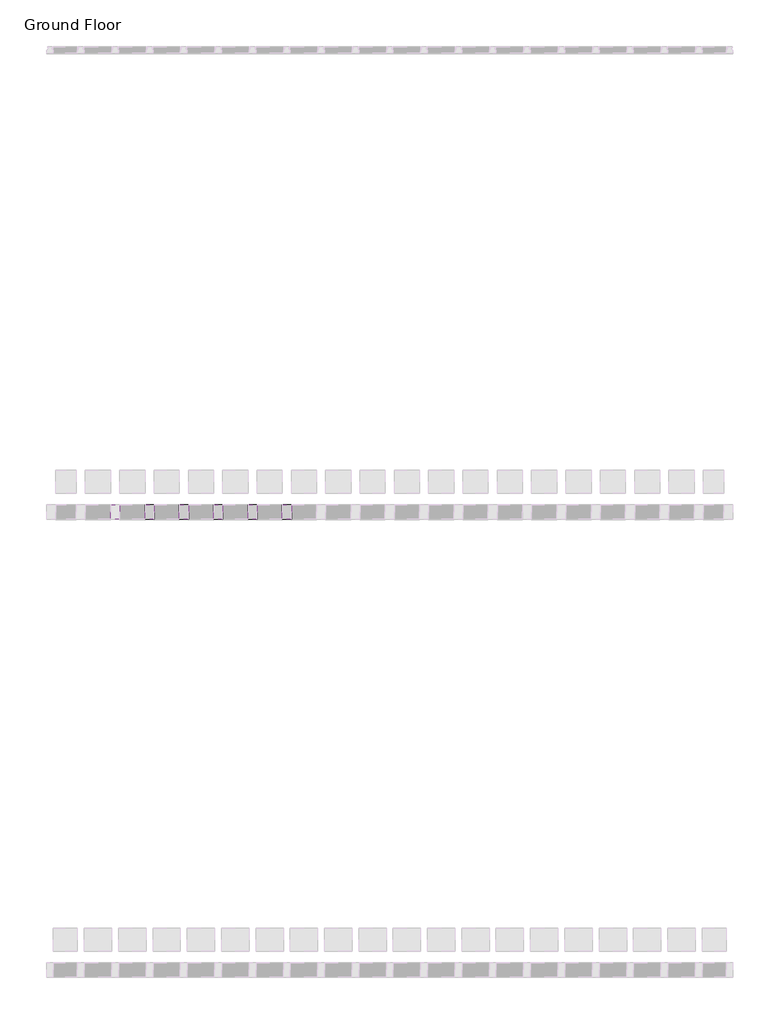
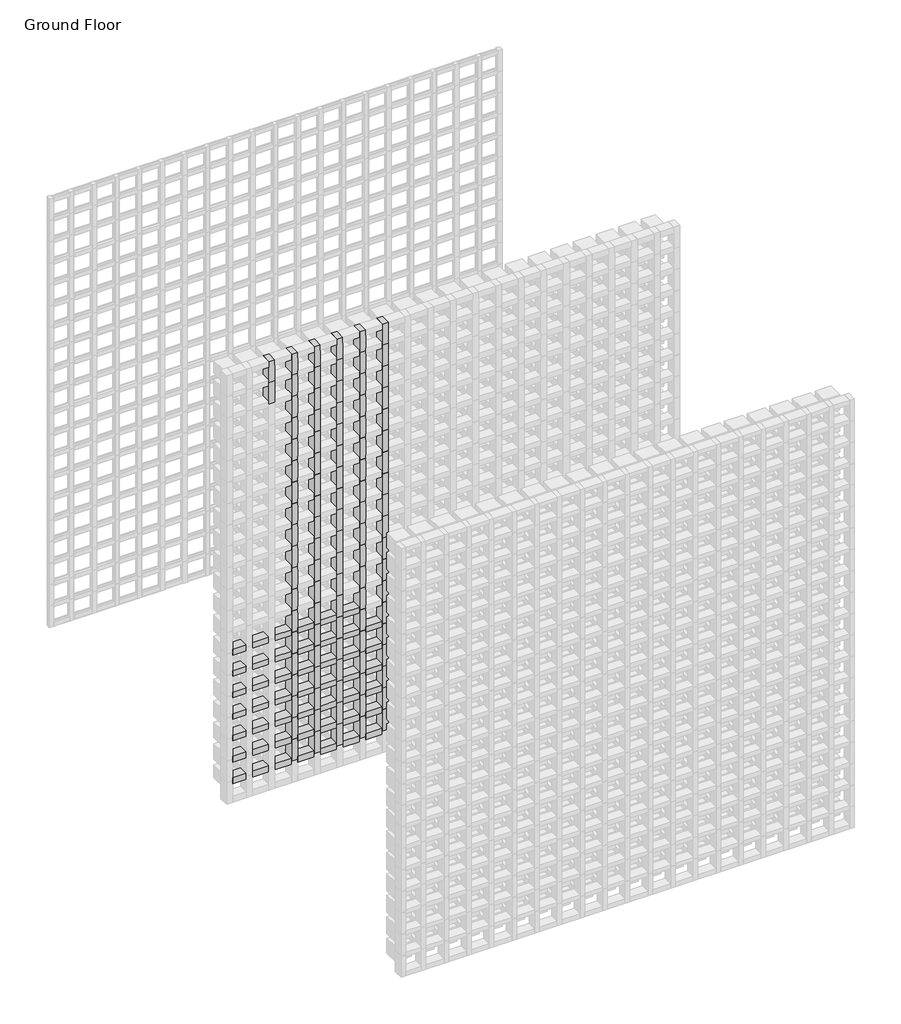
# One storey, part 81 of 350: 145 members.
"""IFC4 building model written with IfcOpenShell, lengths in millimetres."""

from ifc_helpers import new_model, si_unit, origin, place, context, project, spatial, transform, mapped, element, save
from components import rectangular_mullion_655930e9, rectangular_mullion_0b6a8654, rectangular_mullion_97e353d0

model = new_model("IFC4")

# Units and contexts
model_context = context("Model", 3, world=origin())
ifc_project = project(units=[si_unit("LENGTHUNIT", "METRE", prefix="MILLI")], contexts=[model_context])

# Site, building, storey
site = spatial("IfcSite", under=ifc_project)
building = spatial("IfcBuilding", under=site)
storey = spatial("IfcBuildingStorey", under=building, Name="Ground Floor", Elevation=0.0)

# Members
placement = place(None, origin())
rectangular_mullion_shape = rectangular_mullion_655930e9(model_context)
element("IfcMember", 1, ObjectType="Rectangular Mullion : Batten_Timber_Modinex_Austratus_Grid_Fascia_40x65_AlaskanYellowCedar", at=placement, inside=storey, context=model_context, shape_type="MappedRepresentation", body=[
    mapped(rectangular_mullion_shape, transform((2216.4361642, 40968.2978302, 2700.0), x_axis=(1.0, 0.0, 0.0), y_axis=(0.0, -1.0, 0.0), z_axis=(0.0, 0.0, -1.0))),
])
element("IfcMember", 2, ObjectType="Rectangular Mullion : Batten_Timber_Modinex_Austratus_Grid_Fascia_40x65_AlaskanYellowCedar", at=placement, inside=storey, context=model_context, shape_type="MappedRepresentation", body=[
    mapped(rectangular_mullion_shape, transform((2366.4361642, 40968.2978302, 150.0), x_axis=(1.0, 0.0, 0.0), y_axis=(0.0, -1.0, 0.0), z_axis=(0.0, 0.0, -1.0))),
])
element("IfcMember", 3, ObjectType="Rectangular Mullion : Batten_Timber_Modinex_Austratus_Grid_Fascia_40x65_AlaskanYellowCedar", at=placement, inside=storey, context=model_context, shape_type="MappedRepresentation", body=[
    mapped(rectangular_mullion_shape, transform((2366.4361642, 40968.2978302, 300.0), x_axis=(1.0, 0.0, 0.0), y_axis=(0.0, -1.0, 0.0), z_axis=(0.0, 0.0, -1.0))),
])
element("IfcMember", 4, ObjectType="Rectangular Mullion : Batten_Timber_Modinex_Austratus_Grid_Fascia_40x65_AlaskanYellowCedar", at=placement, inside=storey, context=model_context, shape_type="MappedRepresentation", body=[
    mapped(rectangular_mullion_shape, transform((2366.4361642, 40968.2978302, 450.0), x_axis=(1.0, 0.0, 0.0), y_axis=(0.0, -1.0, 0.0), z_axis=(0.0, 0.0, -1.0))),
])
element("IfcMember", 5, ObjectType="Rectangular Mullion : Batten_Timber_Modinex_Austratus_Grid_Fascia_40x65_AlaskanYellowCedar", at=placement, inside=storey, context=model_context, shape_type="MappedRepresentation", body=[
    mapped(rectangular_mullion_shape, transform((2366.4361642, 40968.2978302, 600.0), x_axis=(1.0, 0.0, 0.0), y_axis=(0.0, -1.0, 0.0), z_axis=(0.0, 0.0, -1.0))),
])
element("IfcMember", 6, ObjectType="Rectangular Mullion : Batten_Timber_Modinex_Austratus_Grid_Fascia_40x65_AlaskanYellowCedar", at=placement, inside=storey, context=model_context, shape_type="MappedRepresentation", body=[
    mapped(rectangular_mullion_shape, transform((2366.4361642, 40968.2978302, 750.0), x_axis=(1.0, 0.0, 0.0), y_axis=(0.0, -1.0, 0.0), z_axis=(0.0, 0.0, -1.0))),
])
element("IfcMember", 7, ObjectType="Rectangular Mullion : Batten_Timber_Modinex_Austratus_Grid_Fascia_40x65_AlaskanYellowCedar", at=placement, inside=storey, context=model_context, shape_type="MappedRepresentation", body=[
    mapped(rectangular_mullion_shape, transform((2366.4361642, 40968.2978302, 900.0), x_axis=(1.0, 0.0, 0.0), y_axis=(0.0, -1.0, 0.0), z_axis=(0.0, 0.0, -1.0))),
])
element("IfcMember", 8, ObjectType="Rectangular Mullion : Batten_Timber_Modinex_Austratus_Grid_Fascia_40x65_AlaskanYellowCedar", at=placement, inside=storey, context=model_context, shape_type="MappedRepresentation", body=[
    mapped(rectangular_mullion_shape, transform((2366.4361642, 40968.2978302, 1050.0), x_axis=(1.0, 0.0, 0.0), y_axis=(0.0, -1.0, 0.0), z_axis=(0.0, 0.0, -1.0))),
])
element("IfcMember", 9, ObjectType="Rectangular Mullion : Batten_Timber_Modinex_Austratus_Grid_Fascia_40x65_AlaskanYellowCedar", at=placement, inside=storey, context=model_context, shape_type="MappedRepresentation", body=[
    mapped(rectangular_mullion_shape, transform((2366.4361642, 40968.2978302, 1200.0), x_axis=(1.0, 0.0, 0.0), y_axis=(0.0, -1.0, 0.0), z_axis=(0.0, 0.0, -1.0))),
])
element("IfcMember", 10, ObjectType="Rectangular Mullion : Batten_Timber_Modinex_Austratus_Grid_Fascia_40x65_AlaskanYellowCedar", at=placement, inside=storey, context=model_context, shape_type="MappedRepresentation", body=[
    mapped(rectangular_mullion_shape, transform((2366.4361642, 40968.2978302, 1350.0), x_axis=(1.0, 0.0, 0.0), y_axis=(0.0, -1.0, 0.0), z_axis=(0.0, 0.0, -1.0))),
])
element("IfcMember", 11, ObjectType="Rectangular Mullion : Batten_Timber_Modinex_Austratus_Grid_Fascia_40x65_AlaskanYellowCedar", at=placement, inside=storey, context=model_context, shape_type="MappedRepresentation", body=[
    mapped(rectangular_mullion_shape, transform((2366.4361642, 40968.2978302, 1500.0), x_axis=(1.0, 0.0, 0.0), y_axis=(0.0, -1.0, 0.0), z_axis=(0.0, 0.0, -1.0))),
])
element("IfcMember", 12, ObjectType="Rectangular Mullion : Batten_Timber_Modinex_Austratus_Grid_Fascia_40x65_AlaskanYellowCedar", at=placement, inside=storey, context=model_context, shape_type="MappedRepresentation", body=[
    mapped(rectangular_mullion_shape, transform((2366.4361642, 40968.2978302, 1650.0), x_axis=(1.0, 0.0, 0.0), y_axis=(0.0, -1.0, 0.0), z_axis=(0.0, 0.0, -1.0))),
])
element("IfcMember", 13, ObjectType="Rectangular Mullion : Batten_Timber_Modinex_Austratus_Grid_Fascia_40x65_AlaskanYellowCedar", at=placement, inside=storey, context=model_context, shape_type="MappedRepresentation", body=[
    mapped(rectangular_mullion_shape, transform((2366.4361642, 40968.2978302, 1800.0), x_axis=(1.0, 0.0, 0.0), y_axis=(0.0, -1.0, 0.0), z_axis=(0.0, 0.0, -1.0))),
])
element("IfcMember", 14, ObjectType="Rectangular Mullion : Batten_Timber_Modinex_Austratus_Grid_Fascia_40x65_AlaskanYellowCedar", at=placement, inside=storey, context=model_context, shape_type="MappedRepresentation", body=[
    mapped(rectangular_mullion_shape, transform((2366.4361642, 40968.2978302, 1950.0), x_axis=(1.0, 0.0, 0.0), y_axis=(0.0, -1.0, 0.0), z_axis=(0.0, 0.0, -1.0))),
])
element("IfcMember", 15, ObjectType="Rectangular Mullion : Batten_Timber_Modinex_Austratus_Grid_Fascia_40x65_AlaskanYellowCedar", at=placement, inside=storey, context=model_context, shape_type="MappedRepresentation", body=[
    mapped(rectangular_mullion_shape, transform((2366.4361642, 40968.2978302, 2100.0), x_axis=(1.0, 0.0, 0.0), y_axis=(0.0, -1.0, 0.0), z_axis=(0.0, 0.0, -1.0))),
])
element("IfcMember", 16, ObjectType="Rectangular Mullion : Batten_Timber_Modinex_Austratus_Grid_Fascia_40x65_AlaskanYellowCedar", at=placement, inside=storey, context=model_context, shape_type="MappedRepresentation", body=[
    mapped(rectangular_mullion_shape, transform((2366.4361642, 40968.2978302, 2250.0), x_axis=(1.0, 0.0, 0.0), y_axis=(0.0, -1.0, 0.0), z_axis=(0.0, 0.0, -1.0))),
])
element("IfcMember", 17, ObjectType="Rectangular Mullion : Batten_Timber_Modinex_Austratus_Grid_Fascia_40x65_AlaskanYellowCedar", at=placement, inside=storey, context=model_context, shape_type="MappedRepresentation", body=[
    mapped(rectangular_mullion_shape, transform((2366.4361642, 40968.2978302, 2400.0), x_axis=(1.0, 0.0, 0.0), y_axis=(0.0, -1.0, 0.0), z_axis=(0.0, 0.0, -1.0))),
])
element("IfcMember", 18, ObjectType="Rectangular Mullion : Batten_Timber_Modinex_Austratus_Grid_Fascia_40x65_AlaskanYellowCedar", at=placement, inside=storey, context=model_context, shape_type="MappedRepresentation", body=[
    mapped(rectangular_mullion_shape, transform((2366.4361642, 40968.2978302, 2550.0), x_axis=(1.0, 0.0, 0.0), y_axis=(0.0, -1.0, 0.0), z_axis=(0.0, 0.0, -1.0))),
])
element("IfcMember", 19, ObjectType="Rectangular Mullion : Batten_Timber_Modinex_Austratus_Grid_Fascia_40x65_AlaskanYellowCedar", at=placement, inside=storey, context=model_context, shape_type="MappedRepresentation", body=[
    mapped(rectangular_mullion_shape, transform((2366.4361642, 40968.2978302, 2700.0), x_axis=(1.0, 0.0, 0.0), y_axis=(0.0, -1.0, 0.0), z_axis=(0.0, 0.0, -1.0))),
])
element("IfcMember", 20, ObjectType="Rectangular Mullion : Batten_Timber_Modinex_Austratus_Grid_Fascia_40x65_AlaskanYellowCedar", at=placement, inside=storey, context=model_context, shape_type="MappedRepresentation", body=[
    mapped(rectangular_mullion_shape, transform((2516.4361642, 40968.2978302, 150.0), x_axis=(1.0, 0.0, 0.0), y_axis=(0.0, -1.0, 0.0), z_axis=(0.0, 0.0, -1.0))),
])
element("IfcMember", 21, ObjectType="Rectangular Mullion : Batten_Timber_Modinex_Austratus_Grid_Fascia_40x65_AlaskanYellowCedar", at=placement, inside=storey, context=model_context, shape_type="MappedRepresentation", body=[
    mapped(rectangular_mullion_shape, transform((2516.4361642, 40968.2978302, 300.0), x_axis=(1.0, 0.0, 0.0), y_axis=(0.0, -1.0, 0.0), z_axis=(0.0, 0.0, -1.0))),
])
element("IfcMember", 22, ObjectType="Rectangular Mullion : Batten_Timber_Modinex_Austratus_Grid_Fascia_40x65_AlaskanYellowCedar", at=placement, inside=storey, context=model_context, shape_type="MappedRepresentation", body=[
    mapped(rectangular_mullion_shape, transform((2516.4361642, 40968.2978302, 450.0), x_axis=(1.0, 0.0, 0.0), y_axis=(0.0, -1.0, 0.0), z_axis=(0.0, 0.0, -1.0))),
])
element("IfcMember", 23, ObjectType="Rectangular Mullion : Batten_Timber_Modinex_Austratus_Grid_Fascia_40x65_AlaskanYellowCedar", at=placement, inside=storey, context=model_context, shape_type="MappedRepresentation", body=[
    mapped(rectangular_mullion_shape, transform((2516.4361642, 40968.2978302, 600.0), x_axis=(1.0, 0.0, 0.0), y_axis=(0.0, -1.0, 0.0), z_axis=(0.0, 0.0, -1.0))),
])
element("IfcMember", 24, ObjectType="Rectangular Mullion : Batten_Timber_Modinex_Austratus_Grid_Fascia_40x65_AlaskanYellowCedar", at=placement, inside=storey, context=model_context, shape_type="MappedRepresentation", body=[
    mapped(rectangular_mullion_shape, transform((2516.4361642, 40968.2978302, 750.0), x_axis=(1.0, 0.0, 0.0), y_axis=(0.0, -1.0, 0.0), z_axis=(0.0, 0.0, -1.0))),
])
element("IfcMember", 25, ObjectType="Rectangular Mullion : Batten_Timber_Modinex_Austratus_Grid_Fascia_40x65_AlaskanYellowCedar", at=placement, inside=storey, context=model_context, shape_type="MappedRepresentation", body=[
    mapped(rectangular_mullion_shape, transform((2516.4361642, 40968.2978302, 900.0), x_axis=(1.0, 0.0, 0.0), y_axis=(0.0, -1.0, 0.0), z_axis=(0.0, 0.0, -1.0))),
])
element("IfcMember", 26, ObjectType="Rectangular Mullion : Batten_Timber_Modinex_Austratus_Grid_Fascia_40x65_AlaskanYellowCedar", at=placement, inside=storey, context=model_context, shape_type="MappedRepresentation", body=[
    mapped(rectangular_mullion_shape, transform((2516.4361642, 40968.2978302, 1050.0), x_axis=(1.0, 0.0, 0.0), y_axis=(0.0, -1.0, 0.0), z_axis=(0.0, 0.0, -1.0))),
])
element("IfcMember", 27, ObjectType="Rectangular Mullion : Batten_Timber_Modinex_Austratus_Grid_Fascia_40x65_AlaskanYellowCedar", at=placement, inside=storey, context=model_context, shape_type="MappedRepresentation", body=[
    mapped(rectangular_mullion_shape, transform((2516.4361642, 40968.2978302, 1200.0), x_axis=(1.0, 0.0, 0.0), y_axis=(0.0, -1.0, 0.0), z_axis=(0.0, 0.0, -1.0))),
])
element("IfcMember", 28, ObjectType="Rectangular Mullion : Batten_Timber_Modinex_Austratus_Grid_Fascia_40x65_AlaskanYellowCedar", at=placement, inside=storey, context=model_context, shape_type="MappedRepresentation", body=[
    mapped(rectangular_mullion_shape, transform((2516.4361642, 40968.2978302, 1350.0), x_axis=(1.0, 0.0, 0.0), y_axis=(0.0, -1.0, 0.0), z_axis=(0.0, 0.0, -1.0))),
])
element("IfcMember", 29, ObjectType="Rectangular Mullion : Batten_Timber_Modinex_Austratus_Grid_Fascia_40x65_AlaskanYellowCedar", at=placement, inside=storey, context=model_context, shape_type="MappedRepresentation", body=[
    mapped(rectangular_mullion_shape, transform((2516.4361642, 40968.2978302, 1500.0), x_axis=(1.0, 0.0, 0.0), y_axis=(0.0, -1.0, 0.0), z_axis=(0.0, 0.0, -1.0))),
])
element("IfcMember", 30, ObjectType="Rectangular Mullion : Batten_Timber_Modinex_Austratus_Grid_Fascia_40x65_AlaskanYellowCedar", at=placement, inside=storey, context=model_context, shape_type="MappedRepresentation", body=[
    mapped(rectangular_mullion_shape, transform((2516.4361642, 40968.2978302, 1650.0), x_axis=(1.0, 0.0, 0.0), y_axis=(0.0, -1.0, 0.0), z_axis=(0.0, 0.0, -1.0))),
])
element("IfcMember", 31, ObjectType="Rectangular Mullion : Batten_Timber_Modinex_Austratus_Grid_Fascia_40x65_AlaskanYellowCedar", at=placement, inside=storey, context=model_context, shape_type="MappedRepresentation", body=[
    mapped(rectangular_mullion_shape, transform((2516.4361642, 40968.2978302, 1800.0), x_axis=(1.0, 0.0, 0.0), y_axis=(0.0, -1.0, 0.0), z_axis=(0.0, 0.0, -1.0))),
])
element("IfcMember", 32, ObjectType="Rectangular Mullion : Batten_Timber_Modinex_Austratus_Grid_Fascia_40x65_AlaskanYellowCedar", at=placement, inside=storey, context=model_context, shape_type="MappedRepresentation", body=[
    mapped(rectangular_mullion_shape, transform((2516.4361642, 40968.2978302, 1950.0), x_axis=(1.0, 0.0, 0.0), y_axis=(0.0, -1.0, 0.0), z_axis=(0.0, 0.0, -1.0))),
])
element("IfcMember", 33, ObjectType="Rectangular Mullion : Batten_Timber_Modinex_Austratus_Grid_Fascia_40x65_AlaskanYellowCedar", at=placement, inside=storey, context=model_context, shape_type="MappedRepresentation", body=[
    mapped(rectangular_mullion_shape, transform((2516.4361642, 40968.2978302, 2100.0), x_axis=(1.0, 0.0, 0.0), y_axis=(0.0, -1.0, 0.0), z_axis=(0.0, 0.0, -1.0))),
])
element("IfcMember", 34, ObjectType="Rectangular Mullion : Batten_Timber_Modinex_Austratus_Grid_Fascia_40x65_AlaskanYellowCedar", at=placement, inside=storey, context=model_context, shape_type="MappedRepresentation", body=[
    mapped(rectangular_mullion_shape, transform((2516.4361642, 40968.2978302, 2250.0), x_axis=(1.0, 0.0, 0.0), y_axis=(0.0, -1.0, 0.0), z_axis=(0.0, 0.0, -1.0))),
])
element("IfcMember", 35, ObjectType="Rectangular Mullion : Batten_Timber_Modinex_Austratus_Grid_Fascia_40x65_AlaskanYellowCedar", at=placement, inside=storey, context=model_context, shape_type="MappedRepresentation", body=[
    mapped(rectangular_mullion_shape, transform((2516.4361642, 40968.2978302, 2400.0), x_axis=(1.0, 0.0, 0.0), y_axis=(0.0, -1.0, 0.0), z_axis=(0.0, 0.0, -1.0))),
])
element("IfcMember", 36, ObjectType="Rectangular Mullion : Batten_Timber_Modinex_Austratus_Grid_Fascia_40x65_AlaskanYellowCedar", at=placement, inside=storey, context=model_context, shape_type="MappedRepresentation", body=[
    mapped(rectangular_mullion_shape, transform((2516.4361642, 40968.2978302, 2550.0), x_axis=(1.0, 0.0, 0.0), y_axis=(0.0, -1.0, 0.0), z_axis=(0.0, 0.0, -1.0))),
])
element("IfcMember", 37, ObjectType="Rectangular Mullion : Batten_Timber_Modinex_Austratus_Grid_Fascia_40x65_AlaskanYellowCedar", at=placement, inside=storey, context=model_context, shape_type="MappedRepresentation", body=[
    mapped(rectangular_mullion_shape, transform((2516.4361642, 40968.2978302, 2700.0), x_axis=(1.0, 0.0, 0.0), y_axis=(0.0, -1.0, 0.0), z_axis=(0.0, 0.0, -1.0))),
])
element("IfcMember", 38, ObjectType="Rectangular Mullion : Batten_Timber_Modinex_Austratus_Grid_Fascia_40x65_AlaskanYellowCedar", at=placement, inside=storey, context=model_context, shape_type="MappedRepresentation", body=[
    mapped(rectangular_mullion_shape, transform((2666.4361642, 40968.2978302, 150.0), x_axis=(1.0, 0.0, 0.0), y_axis=(0.0, -1.0, 0.0), z_axis=(0.0, 0.0, -1.0))),
])
element("IfcMember", 39, ObjectType="Rectangular Mullion : Batten_Timber_Modinex_Austratus_Grid_Fascia_40x65_AlaskanYellowCedar", at=placement, inside=storey, context=model_context, shape_type="MappedRepresentation", body=[
    mapped(rectangular_mullion_shape, transform((2666.4361642, 40968.2978302, 300.0), x_axis=(1.0, 0.0, 0.0), y_axis=(0.0, -1.0, 0.0), z_axis=(0.0, 0.0, -1.0))),
])
element("IfcMember", 40, ObjectType="Rectangular Mullion : Batten_Timber_Modinex_Austratus_Grid_Fascia_40x65_AlaskanYellowCedar", at=placement, inside=storey, context=model_context, shape_type="MappedRepresentation", body=[
    mapped(rectangular_mullion_shape, transform((2666.4361642, 40968.2978302, 450.0), x_axis=(1.0, 0.0, 0.0), y_axis=(0.0, -1.0, 0.0), z_axis=(0.0, 0.0, -1.0))),
])
element("IfcMember", 41, ObjectType="Rectangular Mullion : Batten_Timber_Modinex_Austratus_Grid_Fascia_40x65_AlaskanYellowCedar", at=placement, inside=storey, context=model_context, shape_type="MappedRepresentation", body=[
    mapped(rectangular_mullion_shape, transform((2666.4361642, 40968.2978302, 600.0), x_axis=(1.0, 0.0, 0.0), y_axis=(0.0, -1.0, 0.0), z_axis=(0.0, 0.0, -1.0))),
])
element("IfcMember", 42, ObjectType="Rectangular Mullion : Batten_Timber_Modinex_Austratus_Grid_Fascia_40x65_AlaskanYellowCedar", at=placement, inside=storey, context=model_context, shape_type="MappedRepresentation", body=[
    mapped(rectangular_mullion_shape, transform((2666.4361642, 40968.2978302, 750.0), x_axis=(1.0, 0.0, 0.0), y_axis=(0.0, -1.0, 0.0), z_axis=(0.0, 0.0, -1.0))),
])
element("IfcMember", 43, ObjectType="Rectangular Mullion : Batten_Timber_Modinex_Austratus_Grid_Fascia_40x65_AlaskanYellowCedar", at=placement, inside=storey, context=model_context, shape_type="MappedRepresentation", body=[
    mapped(rectangular_mullion_shape, transform((2666.4361642, 40968.2978302, 900.0), x_axis=(1.0, 0.0, 0.0), y_axis=(0.0, -1.0, 0.0), z_axis=(0.0, 0.0, -1.0))),
])
element("IfcMember", 44, ObjectType="Rectangular Mullion : Batten_Timber_Modinex_Austratus_Grid_Fascia_40x65_AlaskanYellowCedar", at=placement, inside=storey, context=model_context, shape_type="MappedRepresentation", body=[
    mapped(rectangular_mullion_shape, transform((2666.4361642, 40968.2978302, 1050.0), x_axis=(1.0, 0.0, 0.0), y_axis=(0.0, -1.0, 0.0), z_axis=(0.0, 0.0, -1.0))),
])
element("IfcMember", 45, ObjectType="Rectangular Mullion : Batten_Timber_Modinex_Austratus_Grid_Fascia_40x65_AlaskanYellowCedar", at=placement, inside=storey, context=model_context, shape_type="MappedRepresentation", body=[
    mapped(rectangular_mullion_shape, transform((2666.4361642, 40968.2978302, 1200.0), x_axis=(1.0, 0.0, 0.0), y_axis=(0.0, -1.0, 0.0), z_axis=(0.0, 0.0, -1.0))),
])
element("IfcMember", 46, ObjectType="Rectangular Mullion : Batten_Timber_Modinex_Austratus_Grid_Fascia_40x65_AlaskanYellowCedar", at=placement, inside=storey, context=model_context, shape_type="MappedRepresentation", body=[
    mapped(rectangular_mullion_shape, transform((2666.4361642, 40968.2978302, 1350.0), x_axis=(1.0, 0.0, 0.0), y_axis=(0.0, -1.0, 0.0), z_axis=(0.0, 0.0, -1.0))),
])
element("IfcMember", 47, ObjectType="Rectangular Mullion : Batten_Timber_Modinex_Austratus_Grid_Fascia_40x65_AlaskanYellowCedar", at=placement, inside=storey, context=model_context, shape_type="MappedRepresentation", body=[
    mapped(rectangular_mullion_shape, transform((2666.4361642, 40968.2978302, 1500.0), x_axis=(1.0, 0.0, 0.0), y_axis=(0.0, -1.0, 0.0), z_axis=(0.0, 0.0, -1.0))),
])
element("IfcMember", 48, ObjectType="Rectangular Mullion : Batten_Timber_Modinex_Austratus_Grid_Fascia_40x65_AlaskanYellowCedar", at=placement, inside=storey, context=model_context, shape_type="MappedRepresentation", body=[
    mapped(rectangular_mullion_shape, transform((2666.4361642, 40968.2978302, 1650.0), x_axis=(1.0, 0.0, 0.0), y_axis=(0.0, -1.0, 0.0), z_axis=(0.0, 0.0, -1.0))),
])
element("IfcMember", 49, ObjectType="Rectangular Mullion : Batten_Timber_Modinex_Austratus_Grid_Fascia_40x65_AlaskanYellowCedar", at=placement, inside=storey, context=model_context, shape_type="MappedRepresentation", body=[
    mapped(rectangular_mullion_shape, transform((2666.4361642, 40968.2978302, 1800.0), x_axis=(1.0, 0.0, 0.0), y_axis=(0.0, -1.0, 0.0), z_axis=(0.0, 0.0, -1.0))),
])
element("IfcMember", 50, ObjectType="Rectangular Mullion : Batten_Timber_Modinex_Austratus_Grid_Fascia_40x65_AlaskanYellowCedar", at=placement, inside=storey, context=model_context, shape_type="MappedRepresentation", body=[
    mapped(rectangular_mullion_shape, transform((2666.4361642, 40968.2978302, 1950.0), x_axis=(1.0, 0.0, 0.0), y_axis=(0.0, -1.0, 0.0), z_axis=(0.0, 0.0, -1.0))),
])
element("IfcMember", 51, ObjectType="Rectangular Mullion : Batten_Timber_Modinex_Austratus_Grid_Fascia_40x65_AlaskanYellowCedar", at=placement, inside=storey, context=model_context, shape_type="MappedRepresentation", body=[
    mapped(rectangular_mullion_shape, transform((2666.4361642, 40968.2978302, 2100.0), x_axis=(1.0, 0.0, 0.0), y_axis=(0.0, -1.0, 0.0), z_axis=(0.0, 0.0, -1.0))),
])
element("IfcMember", 52, ObjectType="Rectangular Mullion : Batten_Timber_Modinex_Austratus_Grid_Fascia_40x65_AlaskanYellowCedar", at=placement, inside=storey, context=model_context, shape_type="MappedRepresentation", body=[
    mapped(rectangular_mullion_shape, transform((2666.4361642, 40968.2978302, 2250.0), x_axis=(1.0, 0.0, 0.0), y_axis=(0.0, -1.0, 0.0), z_axis=(0.0, 0.0, -1.0))),
])
element("IfcMember", 53, ObjectType="Rectangular Mullion : Batten_Timber_Modinex_Austratus_Grid_Fascia_40x65_AlaskanYellowCedar", at=placement, inside=storey, context=model_context, shape_type="MappedRepresentation", body=[
    mapped(rectangular_mullion_shape, transform((2666.4361642, 40968.2978302, 2400.0), x_axis=(1.0, 0.0, 0.0), y_axis=(0.0, -1.0, 0.0), z_axis=(0.0, 0.0, -1.0))),
])
element("IfcMember", 54, ObjectType="Rectangular Mullion : Batten_Timber_Modinex_Austratus_Grid_Fascia_40x65_AlaskanYellowCedar", at=placement, inside=storey, context=model_context, shape_type="MappedRepresentation", body=[
    mapped(rectangular_mullion_shape, transform((2666.4361642, 40968.2978302, 2550.0), x_axis=(1.0, 0.0, 0.0), y_axis=(0.0, -1.0, 0.0), z_axis=(0.0, 0.0, -1.0))),
])
element("IfcMember", 55, ObjectType="Rectangular Mullion : Batten_Timber_Modinex_Austratus_Grid_Fascia_40x65_AlaskanYellowCedar", at=placement, inside=storey, context=model_context, shape_type="MappedRepresentation", body=[
    mapped(rectangular_mullion_shape, transform((2666.4361642, 40968.2978302, 2700.0), x_axis=(1.0, 0.0, 0.0), y_axis=(0.0, -1.0, 0.0), z_axis=(0.0, 0.0, -1.0))),
])
element("IfcMember", 56, ObjectType="Rectangular Mullion : Batten_Timber_Modinex_Austratus_Grid_Fascia_40x65_AlaskanYellowCedar", at=placement, inside=storey, context=model_context, shape_type="MappedRepresentation", body=[
    mapped(rectangular_mullion_shape, transform((2816.4361642, 40968.2978302, 150.0), x_axis=(1.0, 0.0, 0.0), y_axis=(0.0, -1.0, 0.0), z_axis=(0.0, 0.0, -1.0))),
])
element("IfcMember", 57, ObjectType="Rectangular Mullion : Batten_Timber_Modinex_Austratus_Grid_Fascia_40x65_AlaskanYellowCedar", at=placement, inside=storey, context=model_context, shape_type="MappedRepresentation", body=[
    mapped(rectangular_mullion_shape, transform((2816.4361642, 40968.2978302, 300.0), x_axis=(1.0, 0.0, 0.0), y_axis=(0.0, -1.0, 0.0), z_axis=(0.0, 0.0, -1.0))),
])
element("IfcMember", 58, ObjectType="Rectangular Mullion : Batten_Timber_Modinex_Austratus_Grid_Fascia_40x65_AlaskanYellowCedar", at=placement, inside=storey, context=model_context, shape_type="MappedRepresentation", body=[
    mapped(rectangular_mullion_shape, transform((2816.4361642, 40968.2978302, 450.0), x_axis=(1.0, 0.0, 0.0), y_axis=(0.0, -1.0, 0.0), z_axis=(0.0, 0.0, -1.0))),
])
element("IfcMember", 59, ObjectType="Rectangular Mullion : Batten_Timber_Modinex_Austratus_Grid_Fascia_40x65_AlaskanYellowCedar", at=placement, inside=storey, context=model_context, shape_type="MappedRepresentation", body=[
    mapped(rectangular_mullion_shape, transform((2816.4361642, 40968.2978302, 600.0), x_axis=(1.0, 0.0, 0.0), y_axis=(0.0, -1.0, 0.0), z_axis=(0.0, 0.0, -1.0))),
])
element("IfcMember", 60, ObjectType="Rectangular Mullion : Batten_Timber_Modinex_Austratus_Grid_Fascia_40x65_AlaskanYellowCedar", at=placement, inside=storey, context=model_context, shape_type="MappedRepresentation", body=[
    mapped(rectangular_mullion_shape, transform((2816.4361642, 40968.2978302, 750.0), x_axis=(1.0, 0.0, 0.0), y_axis=(0.0, -1.0, 0.0), z_axis=(0.0, 0.0, -1.0))),
])
element("IfcMember", 61, ObjectType="Rectangular Mullion : Batten_Timber_Modinex_Austratus_Grid_Fascia_40x65_AlaskanYellowCedar", at=placement, inside=storey, context=model_context, shape_type="MappedRepresentation", body=[
    mapped(rectangular_mullion_shape, transform((2816.4361642, 40968.2978302, 900.0), x_axis=(1.0, 0.0, 0.0), y_axis=(0.0, -1.0, 0.0), z_axis=(0.0, 0.0, -1.0))),
])
element("IfcMember", 62, ObjectType="Rectangular Mullion : Batten_Timber_Modinex_Austratus_Grid_Fascia_40x65_AlaskanYellowCedar", at=placement, inside=storey, context=model_context, shape_type="MappedRepresentation", body=[
    mapped(rectangular_mullion_shape, transform((2816.4361642, 40968.2978302, 1050.0), x_axis=(1.0, 0.0, 0.0), y_axis=(0.0, -1.0, 0.0), z_axis=(0.0, 0.0, -1.0))),
])
element("IfcMember", 63, ObjectType="Rectangular Mullion : Batten_Timber_Modinex_Austratus_Grid_Fascia_40x65_AlaskanYellowCedar", at=placement, inside=storey, context=model_context, shape_type="MappedRepresentation", body=[
    mapped(rectangular_mullion_shape, transform((2816.4361642, 40968.2978302, 1200.0), x_axis=(1.0, 0.0, 0.0), y_axis=(0.0, -1.0, 0.0), z_axis=(0.0, 0.0, -1.0))),
])
element("IfcMember", 64, ObjectType="Rectangular Mullion : Batten_Timber_Modinex_Austratus_Grid_Fascia_40x65_AlaskanYellowCedar", at=placement, inside=storey, context=model_context, shape_type="MappedRepresentation", body=[
    mapped(rectangular_mullion_shape, transform((2816.4361642, 40968.2978302, 1350.0), x_axis=(1.0, 0.0, 0.0), y_axis=(0.0, -1.0, 0.0), z_axis=(0.0, 0.0, -1.0))),
])
element("IfcMember", 65, ObjectType="Rectangular Mullion : Batten_Timber_Modinex_Austratus_Grid_Fascia_40x65_AlaskanYellowCedar", at=placement, inside=storey, context=model_context, shape_type="MappedRepresentation", body=[
    mapped(rectangular_mullion_shape, transform((2816.4361642, 40968.2978302, 1500.0), x_axis=(1.0, 0.0, 0.0), y_axis=(0.0, -1.0, 0.0), z_axis=(0.0, 0.0, -1.0))),
])
element("IfcMember", 66, ObjectType="Rectangular Mullion : Batten_Timber_Modinex_Austratus_Grid_Fascia_40x65_AlaskanYellowCedar", at=placement, inside=storey, context=model_context, shape_type="MappedRepresentation", body=[
    mapped(rectangular_mullion_shape, transform((2816.4361642, 40968.2978302, 1650.0), x_axis=(1.0, 0.0, 0.0), y_axis=(0.0, -1.0, 0.0), z_axis=(0.0, 0.0, -1.0))),
])
element("IfcMember", 67, ObjectType="Rectangular Mullion : Batten_Timber_Modinex_Austratus_Grid_Fascia_40x65_AlaskanYellowCedar", at=placement, inside=storey, context=model_context, shape_type="MappedRepresentation", body=[
    mapped(rectangular_mullion_shape, transform((2816.4361642, 40968.2978302, 1800.0), x_axis=(1.0, 0.0, 0.0), y_axis=(0.0, -1.0, 0.0), z_axis=(0.0, 0.0, -1.0))),
])
element("IfcMember", 68, ObjectType="Rectangular Mullion : Batten_Timber_Modinex_Austratus_Grid_Fascia_40x65_AlaskanYellowCedar", at=placement, inside=storey, context=model_context, shape_type="MappedRepresentation", body=[
    mapped(rectangular_mullion_shape, transform((2816.4361642, 40968.2978302, 1950.0), x_axis=(1.0, 0.0, 0.0), y_axis=(0.0, -1.0, 0.0), z_axis=(0.0, 0.0, -1.0))),
])
element("IfcMember", 69, ObjectType="Rectangular Mullion : Batten_Timber_Modinex_Austratus_Grid_Fascia_40x65_AlaskanYellowCedar", at=placement, inside=storey, context=model_context, shape_type="MappedRepresentation", body=[
    mapped(rectangular_mullion_shape, transform((2816.4361642, 40968.2978302, 2100.0), x_axis=(1.0, 0.0, 0.0), y_axis=(0.0, -1.0, 0.0), z_axis=(0.0, 0.0, -1.0))),
])
element("IfcMember", 70, ObjectType="Rectangular Mullion : Batten_Timber_Modinex_Austratus_Grid_Fascia_40x65_AlaskanYellowCedar", at=placement, inside=storey, context=model_context, shape_type="MappedRepresentation", body=[
    mapped(rectangular_mullion_shape, transform((2816.4361642, 40968.2978302, 2250.0), x_axis=(1.0, 0.0, 0.0), y_axis=(0.0, -1.0, 0.0), z_axis=(0.0, 0.0, -1.0))),
])
element("IfcMember", 71, ObjectType="Rectangular Mullion : Batten_Timber_Modinex_Austratus_Grid_Fascia_40x65_AlaskanYellowCedar", at=placement, inside=storey, context=model_context, shape_type="MappedRepresentation", body=[
    mapped(rectangular_mullion_shape, transform((2816.4361642, 40968.2978302, 2400.0), x_axis=(1.0, 0.0, 0.0), y_axis=(0.0, -1.0, 0.0), z_axis=(0.0, 0.0, -1.0))),
])
element("IfcMember", 72, ObjectType="Rectangular Mullion : Batten_Timber_Modinex_Austratus_Grid_Fascia_40x65_AlaskanYellowCedar", at=placement, inside=storey, context=model_context, shape_type="MappedRepresentation", body=[
    mapped(rectangular_mullion_shape, transform((2816.4361642, 40968.2978302, 2550.0), x_axis=(1.0, 0.0, 0.0), y_axis=(0.0, -1.0, 0.0), z_axis=(0.0, 0.0, -1.0))),
])
element("IfcMember", 73, ObjectType="Rectangular Mullion : Batten_Timber_Modinex_Austratus_Grid_Fascia_40x65_AlaskanYellowCedar", at=placement, inside=storey, context=model_context, shape_type="MappedRepresentation", body=[
    mapped(rectangular_mullion_shape, transform((2816.4361642, 40968.2978302, 2700.0), x_axis=(1.0, 0.0, 0.0), y_axis=(0.0, -1.0, 0.0), z_axis=(0.0, 0.0, -1.0))),
])
element("IfcMember", 74, ObjectType="Rectangular Mullion : Batten_Timber_Modinex_Austratus_Grid_Fascia_40x65_AlaskanYellowCedar", at=placement, inside=storey, context=model_context, shape_type="MappedRepresentation", body=[
    mapped(rectangular_mullion_shape, transform((2966.4361642, 40968.2978302, 150.0), x_axis=(1.0, 0.0, 0.0), y_axis=(0.0, -1.0, 0.0), z_axis=(0.0, 0.0, -1.0))),
])
element("IfcMember", 75, ObjectType="Rectangular Mullion : Batten_Timber_Modinex_Austratus_Grid_Fascia_40x65_AlaskanYellowCedar", at=placement, inside=storey, context=model_context, shape_type="MappedRepresentation", body=[
    mapped(rectangular_mullion_shape, transform((2966.4361642, 40968.2978302, 300.0), x_axis=(1.0, 0.0, 0.0), y_axis=(0.0, -1.0, 0.0), z_axis=(0.0, 0.0, -1.0))),
])
element("IfcMember", 76, ObjectType="Rectangular Mullion : Batten_Timber_Modinex_Austratus_Grid_Fascia_40x65_AlaskanYellowCedar", at=placement, inside=storey, context=model_context, shape_type="MappedRepresentation", body=[
    mapped(rectangular_mullion_shape, transform((2966.4361642, 40968.2978302, 450.0), x_axis=(1.0, 0.0, 0.0), y_axis=(0.0, -1.0, 0.0), z_axis=(0.0, 0.0, -1.0))),
])
element("IfcMember", 77, ObjectType="Rectangular Mullion : Batten_Timber_Modinex_Austratus_Grid_Fascia_40x65_AlaskanYellowCedar", at=placement, inside=storey, context=model_context, shape_type="MappedRepresentation", body=[
    mapped(rectangular_mullion_shape, transform((2966.4361642, 40968.2978302, 600.0), x_axis=(1.0, 0.0, 0.0), y_axis=(0.0, -1.0, 0.0), z_axis=(0.0, 0.0, -1.0))),
])
element("IfcMember", 78, ObjectType="Rectangular Mullion : Batten_Timber_Modinex_Austratus_Grid_Fascia_40x65_AlaskanYellowCedar", at=placement, inside=storey, context=model_context, shape_type="MappedRepresentation", body=[
    mapped(rectangular_mullion_shape, transform((2966.4361642, 40968.2978302, 750.0), x_axis=(1.0, 0.0, 0.0), y_axis=(0.0, -1.0, 0.0), z_axis=(0.0, 0.0, -1.0))),
])
element("IfcMember", 79, ObjectType="Rectangular Mullion : Batten_Timber_Modinex_Austratus_Grid_Fascia_40x65_AlaskanYellowCedar", at=placement, inside=storey, context=model_context, shape_type="MappedRepresentation", body=[
    mapped(rectangular_mullion_shape, transform((2966.4361642, 40968.2978302, 900.0), x_axis=(1.0, 0.0, 0.0), y_axis=(0.0, -1.0, 0.0), z_axis=(0.0, 0.0, -1.0))),
])
element("IfcMember", 80, ObjectType="Rectangular Mullion : Batten_Timber_Modinex_Austratus_Grid_Fascia_40x65_AlaskanYellowCedar", at=placement, inside=storey, context=model_context, shape_type="MappedRepresentation", body=[
    mapped(rectangular_mullion_shape, transform((2966.4361642, 40968.2978302, 1050.0), x_axis=(1.0, 0.0, 0.0), y_axis=(0.0, -1.0, 0.0), z_axis=(0.0, 0.0, -1.0))),
])
element("IfcMember", 81, ObjectType="Rectangular Mullion : Batten_Timber_Modinex_Austratus_Grid_Fascia_40x65_AlaskanYellowCedar", at=placement, inside=storey, context=model_context, shape_type="MappedRepresentation", body=[
    mapped(rectangular_mullion_shape, transform((2966.4361642, 40968.2978302, 1200.0), x_axis=(1.0, 0.0, 0.0), y_axis=(0.0, -1.0, 0.0), z_axis=(0.0, 0.0, -1.0))),
])
element("IfcMember", 82, ObjectType="Rectangular Mullion : Batten_Timber_Modinex_Austratus_Grid_Fascia_40x65_AlaskanYellowCedar", at=placement, inside=storey, context=model_context, shape_type="MappedRepresentation", body=[
    mapped(rectangular_mullion_shape, transform((2966.4361642, 40968.2978302, 1350.0), x_axis=(1.0, 0.0, 0.0), y_axis=(0.0, -1.0, 0.0), z_axis=(0.0, 0.0, -1.0))),
])
element("IfcMember", 83, ObjectType="Rectangular Mullion : Batten_Timber_Modinex_Austratus_Grid_Fascia_40x65_AlaskanYellowCedar", at=placement, inside=storey, context=model_context, shape_type="MappedRepresentation", body=[
    mapped(rectangular_mullion_shape, transform((2966.4361642, 40968.2978302, 1500.0), x_axis=(1.0, 0.0, 0.0), y_axis=(0.0, -1.0, 0.0), z_axis=(0.0, 0.0, -1.0))),
])
element("IfcMember", 84, ObjectType="Rectangular Mullion : Batten_Timber_Modinex_Austratus_Grid_Fascia_40x65_AlaskanYellowCedar", at=placement, inside=storey, context=model_context, shape_type="MappedRepresentation", body=[
    mapped(rectangular_mullion_shape, transform((2966.4361642, 40968.2978302, 1650.0), x_axis=(1.0, 0.0, 0.0), y_axis=(0.0, -1.0, 0.0), z_axis=(0.0, 0.0, -1.0))),
])
element("IfcMember", 85, ObjectType="Rectangular Mullion : Batten_Timber_Modinex_Austratus_Grid_Fascia_40x65_AlaskanYellowCedar", at=placement, inside=storey, context=model_context, shape_type="MappedRepresentation", body=[
    mapped(rectangular_mullion_shape, transform((2966.4361642, 40968.2978302, 1800.0), x_axis=(1.0, 0.0, 0.0), y_axis=(0.0, -1.0, 0.0), z_axis=(0.0, 0.0, -1.0))),
])
element("IfcMember", 86, ObjectType="Rectangular Mullion : Batten_Timber_Modinex_Austratus_Grid_Fascia_40x65_AlaskanYellowCedar", at=placement, inside=storey, context=model_context, shape_type="MappedRepresentation", body=[
    mapped(rectangular_mullion_shape, transform((2966.4361642, 40968.2978302, 1950.0), x_axis=(1.0, 0.0, 0.0), y_axis=(0.0, -1.0, 0.0), z_axis=(0.0, 0.0, -1.0))),
])
element("IfcMember", 87, ObjectType="Rectangular Mullion : Batten_Timber_Modinex_Austratus_Grid_Fascia_40x65_AlaskanYellowCedar", at=placement, inside=storey, context=model_context, shape_type="MappedRepresentation", body=[
    mapped(rectangular_mullion_shape, transform((2966.4361642, 40968.2978302, 2100.0), x_axis=(1.0, 0.0, 0.0), y_axis=(0.0, -1.0, 0.0), z_axis=(0.0, 0.0, -1.0))),
])
element("IfcMember", 88, ObjectType="Rectangular Mullion : Batten_Timber_Modinex_Austratus_Grid_Fascia_40x65_AlaskanYellowCedar", at=placement, inside=storey, context=model_context, shape_type="MappedRepresentation", body=[
    mapped(rectangular_mullion_shape, transform((2966.4361642, 40968.2978302, 2250.0), x_axis=(1.0, 0.0, 0.0), y_axis=(0.0, -1.0, 0.0), z_axis=(0.0, 0.0, -1.0))),
])
element("IfcMember", 89, ObjectType="Rectangular Mullion : Batten_Timber_Modinex_Austratus_Grid_Fascia_40x65_AlaskanYellowCedar", at=placement, inside=storey, context=model_context, shape_type="MappedRepresentation", body=[
    mapped(rectangular_mullion_shape, transform((2966.4361642, 40968.2978302, 2400.0), x_axis=(1.0, 0.0, 0.0), y_axis=(0.0, -1.0, 0.0), z_axis=(0.0, 0.0, -1.0))),
])
element("IfcMember", 90, ObjectType="Rectangular Mullion : Batten_Timber_Modinex_Austratus_Grid_Fascia_40x65_AlaskanYellowCedar", at=placement, inside=storey, context=model_context, shape_type="MappedRepresentation", body=[
    mapped(rectangular_mullion_shape, transform((2966.4361642, 40968.2978302, 2550.0), x_axis=(1.0, 0.0, 0.0), y_axis=(0.0, -1.0, 0.0), z_axis=(0.0, 0.0, -1.0))),
])
element("IfcMember", 91, ObjectType="Rectangular Mullion : Batten_Timber_Modinex_Austratus_Grid_Fascia_40x65_AlaskanYellowCedar", at=placement, inside=storey, context=model_context, shape_type="MappedRepresentation", body=[
    mapped(rectangular_mullion_shape, transform((2966.4361642, 40968.2978302, 2700.0), x_axis=(1.0, 0.0, 0.0), y_axis=(0.0, -1.0, 0.0), z_axis=(0.0, 0.0, -1.0))),
])
element("IfcMember", 92, ObjectType="Rectangular Mullion : Batten_Timber_Modinex_Austratus_Grid_Fascia_40x65_AlaskanYellowCedar", at=placement, inside=storey, context=model_context, shape_type="MappedRepresentation", body=[
    mapped(rectangular_mullion_shape, transform((2216.4361642, 40968.2978302, 2850.0), x_axis=(1.0, 0.0, 0.0), y_axis=(0.0, -1.0, 0.0), z_axis=(0.0, 0.0, -1.0))),
])
element("IfcMember", 93, ObjectType="Rectangular Mullion : Batten_Timber_Modinex_Austratus_Grid_Fascia_40x65_AlaskanYellowCedar", at=placement, inside=storey, context=model_context, shape_type="MappedRepresentation", body=[
    mapped(rectangular_mullion_shape, transform((2366.4361642, 40968.2978302, 2850.0), x_axis=(1.0, 0.0, 0.0), y_axis=(0.0, -1.0, 0.0), z_axis=(0.0, 0.0, -1.0))),
])
element("IfcMember", 94, ObjectType="Rectangular Mullion : Batten_Timber_Modinex_Austratus_Grid_Fascia_40x65_AlaskanYellowCedar", at=placement, inside=storey, context=model_context, shape_type="MappedRepresentation", body=[
    mapped(rectangular_mullion_shape, transform((2516.4361642, 40968.2978302, 2850.0), x_axis=(1.0, 0.0, 0.0), y_axis=(0.0, -1.0, 0.0), z_axis=(0.0, 0.0, -1.0))),
])
element("IfcMember", 95, ObjectType="Rectangular Mullion : Batten_Timber_Modinex_Austratus_Grid_Fascia_40x65_AlaskanYellowCedar", at=placement, inside=storey, context=model_context, shape_type="MappedRepresentation", body=[
    mapped(rectangular_mullion_shape, transform((2666.4361642, 40968.2978302, 2850.0), x_axis=(1.0, 0.0, 0.0), y_axis=(0.0, -1.0, 0.0), z_axis=(0.0, 0.0, -1.0))),
])
element("IfcMember", 96, ObjectType="Rectangular Mullion : Batten_Timber_Modinex_Austratus_Grid_Fascia_40x65_AlaskanYellowCedar", at=placement, inside=storey, context=model_context, shape_type="MappedRepresentation", body=[
    mapped(rectangular_mullion_shape, transform((2816.4361642, 40968.2978302, 2850.0), x_axis=(1.0, 0.0, 0.0), y_axis=(0.0, -1.0, 0.0), z_axis=(0.0, 0.0, -1.0))),
])
element("IfcMember", 97, ObjectType="Rectangular Mullion : Batten_Timber_Modinex_Austratus_Grid_Fascia_40x65_AlaskanYellowCedar", at=placement, inside=storey, context=model_context, shape_type="MappedRepresentation", body=[
    mapped(rectangular_mullion_shape, transform((2966.4361642, 40968.2978302, 2850.0), x_axis=(1.0, 0.0, 0.0), y_axis=(0.0, -1.0, 0.0), z_axis=(0.0, 0.0, -1.0))),
])
rectangular_mullion_2_shape = rectangular_mullion_0b6a8654(model_context)
element("IfcMember", 98, ObjectType="Rectangular Mullion : Batten_Timber_Modinex_Austratus_Grid_Fascia_40x65_AlaskanYellowCedar", at=placement, inside=storey, context=model_context, shape_type="MappedRepresentation", body=[
    mapped(rectangular_mullion_2_shape, transform((2046.4361642, 40968.2978302, 150.0), x_axis=(0.0, 0.0, 1.0), y_axis=(0.0, -1.0, 0.0), z_axis=(1.0, 0.0, 0.0))),
])
element("IfcMember", 99, ObjectType="Rectangular Mullion : Batten_Timber_Modinex_Austratus_Grid_Fascia_40x65_AlaskanYellowCedar", at=placement, inside=storey, context=model_context, shape_type="MappedRepresentation", body=[
    mapped(rectangular_mullion_2_shape, transform((2046.4361642, 40968.2978302, 300.0), x_axis=(0.0, 0.0, 1.0), y_axis=(0.0, -1.0, 0.0), z_axis=(1.0, 0.0, 0.0))),
])
element("IfcMember", 100, ObjectType="Rectangular Mullion : Batten_Timber_Modinex_Austratus_Grid_Fascia_40x65_AlaskanYellowCedar", at=placement, inside=storey, context=model_context, shape_type="MappedRepresentation", body=[
    mapped(rectangular_mullion_2_shape, transform((2046.4361642, 40968.2978302, 450.0), x_axis=(0.0, 0.0, 1.0), y_axis=(0.0, -1.0, 0.0), z_axis=(1.0, 0.0, 0.0))),
])
element("IfcMember", 101, ObjectType="Rectangular Mullion : Batten_Timber_Modinex_Austratus_Grid_Fascia_40x65_AlaskanYellowCedar", at=placement, inside=storey, context=model_context, shape_type="MappedRepresentation", body=[
    mapped(rectangular_mullion_2_shape, transform((2046.4361642, 40968.2978302, 600.0), x_axis=(0.0, 0.0, 1.0), y_axis=(0.0, -1.0, 0.0), z_axis=(1.0, 0.0, 0.0))),
])
element("IfcMember", 102, ObjectType="Rectangular Mullion : Batten_Timber_Modinex_Austratus_Grid_Fascia_40x65_AlaskanYellowCedar", at=placement, inside=storey, context=model_context, shape_type="MappedRepresentation", body=[
    mapped(rectangular_mullion_2_shape, transform((2046.4361642, 40968.2978302, 750.0), x_axis=(0.0, 0.0, 1.0), y_axis=(0.0, -1.0, 0.0), z_axis=(1.0, 0.0, 0.0))),
])
element("IfcMember", 103, ObjectType="Rectangular Mullion : Batten_Timber_Modinex_Austratus_Grid_Fascia_40x65_AlaskanYellowCedar", at=placement, inside=storey, context=model_context, shape_type="MappedRepresentation", body=[
    mapped(rectangular_mullion_2_shape, transform((2046.4361642, 40968.2978302, 900.0), x_axis=(0.0, 0.0, 1.0), y_axis=(0.0, -1.0, 0.0), z_axis=(1.0, 0.0, 0.0))),
])
element("IfcMember", 104, ObjectType="Rectangular Mullion : Batten_Timber_Modinex_Austratus_Grid_Fascia_40x65_AlaskanYellowCedar", at=placement, inside=storey, context=model_context, shape_type="MappedRepresentation", body=[
    mapped(rectangular_mullion_2_shape, transform((2046.4361642, 40968.2978302, 1050.0), x_axis=(0.0, 0.0, 1.0), y_axis=(0.0, -1.0, 0.0), z_axis=(1.0, 0.0, 0.0))),
])
rectangular_mullion_3_shape = rectangular_mullion_97e353d0(model_context)
element("IfcMember", 105, ObjectType="Rectangular Mullion : Batten_Timber_Modinex_Austratus_Grid_Fascia_40x65_AlaskanYellowCedar", at=placement, inside=storey, context=model_context, shape_type="MappedRepresentation", body=[
    mapped(rectangular_mullion_3_shape, transform((2196.4361642, 40968.2978302, 150.0), x_axis=(0.0, 0.0, 1.0), y_axis=(0.0, -1.0, 0.0), z_axis=(1.0, 0.0, 0.0))),
])
element("IfcMember", 106, ObjectType="Rectangular Mullion : Batten_Timber_Modinex_Austratus_Grid_Fascia_40x65_AlaskanYellowCedar", at=placement, inside=storey, context=model_context, shape_type="MappedRepresentation", body=[
    mapped(rectangular_mullion_3_shape, transform((2346.4361642, 40968.2978302, 150.0), x_axis=(0.0, 0.0, 1.0), y_axis=(0.0, -1.0, 0.0), z_axis=(1.0, 0.0, 0.0))),
])
element("IfcMember", 107, ObjectType="Rectangular Mullion : Batten_Timber_Modinex_Austratus_Grid_Fascia_40x65_AlaskanYellowCedar", at=placement, inside=storey, context=model_context, shape_type="MappedRepresentation", body=[
    mapped(rectangular_mullion_3_shape, transform((2496.4361642, 40968.2978302, 150.0), x_axis=(0.0, 0.0, 1.0), y_axis=(0.0, -1.0, 0.0), z_axis=(1.0, 0.0, 0.0))),
])
element("IfcMember", 108, ObjectType="Rectangular Mullion : Batten_Timber_Modinex_Austratus_Grid_Fascia_40x65_AlaskanYellowCedar", at=placement, inside=storey, context=model_context, shape_type="MappedRepresentation", body=[
    mapped(rectangular_mullion_3_shape, transform((2646.4361642, 40968.2978302, 150.0), x_axis=(0.0, 0.0, 1.0), y_axis=(0.0, -1.0, 0.0), z_axis=(1.0, 0.0, 0.0))),
])
element("IfcMember", 109, ObjectType="Rectangular Mullion : Batten_Timber_Modinex_Austratus_Grid_Fascia_40x65_AlaskanYellowCedar", at=placement, inside=storey, context=model_context, shape_type="MappedRepresentation", body=[
    mapped(rectangular_mullion_3_shape, transform((2796.4361642, 40968.2978302, 150.0), x_axis=(0.0, 0.0, 1.0), y_axis=(0.0, -1.0, 0.0), z_axis=(1.0, 0.0, 0.0))),
])
element("IfcMember", 110, ObjectType="Rectangular Mullion : Batten_Timber_Modinex_Austratus_Grid_Fascia_40x65_AlaskanYellowCedar", at=placement, inside=storey, context=model_context, shape_type="MappedRepresentation", body=[
    mapped(rectangular_mullion_3_shape, transform((2946.4361642, 40968.2978302, 150.0), x_axis=(0.0, 0.0, 1.0), y_axis=(0.0, -1.0, 0.0), z_axis=(1.0, 0.0, 0.0))),
])
element("IfcMember", 111, ObjectType="Rectangular Mullion : Batten_Timber_Modinex_Austratus_Grid_Fascia_40x65_AlaskanYellowCedar", at=placement, inside=storey, context=model_context, shape_type="MappedRepresentation", body=[
    mapped(rectangular_mullion_3_shape, transform((2196.4361642, 40968.2978302, 300.0), x_axis=(0.0, 0.0, 1.0), y_axis=(0.0, -1.0, 0.0), z_axis=(1.0, 0.0, 0.0))),
])
element("IfcMember", 112, ObjectType="Rectangular Mullion : Batten_Timber_Modinex_Austratus_Grid_Fascia_40x65_AlaskanYellowCedar", at=placement, inside=storey, context=model_context, shape_type="MappedRepresentation", body=[
    mapped(rectangular_mullion_3_shape, transform((2346.4361642, 40968.2978302, 300.0), x_axis=(0.0, 0.0, 1.0), y_axis=(0.0, -1.0, 0.0), z_axis=(1.0, 0.0, 0.0))),
])
element("IfcMember", 113, ObjectType="Rectangular Mullion : Batten_Timber_Modinex_Austratus_Grid_Fascia_40x65_AlaskanYellowCedar", at=placement, inside=storey, context=model_context, shape_type="MappedRepresentation", body=[
    mapped(rectangular_mullion_3_shape, transform((2496.4361642, 40968.2978302, 300.0), x_axis=(0.0, 0.0, 1.0), y_axis=(0.0, -1.0, 0.0), z_axis=(1.0, 0.0, 0.0))),
])
element("IfcMember", 114, ObjectType="Rectangular Mullion : Batten_Timber_Modinex_Austratus_Grid_Fascia_40x65_AlaskanYellowCedar", at=placement, inside=storey, context=model_context, shape_type="MappedRepresentation", body=[
    mapped(rectangular_mullion_3_shape, transform((2646.4361642, 40968.2978302, 300.0), x_axis=(0.0, 0.0, 1.0), y_axis=(0.0, -1.0, 0.0), z_axis=(1.0, 0.0, 0.0))),
])
element("IfcMember", 115, ObjectType="Rectangular Mullion : Batten_Timber_Modinex_Austratus_Grid_Fascia_40x65_AlaskanYellowCedar", at=placement, inside=storey, context=model_context, shape_type="MappedRepresentation", body=[
    mapped(rectangular_mullion_3_shape, transform((2796.4361642, 40968.2978302, 300.0), x_axis=(0.0, 0.0, 1.0), y_axis=(0.0, -1.0, 0.0), z_axis=(1.0, 0.0, 0.0))),
])
element("IfcMember", 116, ObjectType="Rectangular Mullion : Batten_Timber_Modinex_Austratus_Grid_Fascia_40x65_AlaskanYellowCedar", at=placement, inside=storey, context=model_context, shape_type="MappedRepresentation", body=[
    mapped(rectangular_mullion_3_shape, transform((2946.4361642, 40968.2978302, 300.0), x_axis=(0.0, 0.0, 1.0), y_axis=(0.0, -1.0, 0.0), z_axis=(1.0, 0.0, 0.0))),
])
element("IfcMember", 117, ObjectType="Rectangular Mullion : Batten_Timber_Modinex_Austratus_Grid_Fascia_40x65_AlaskanYellowCedar", at=placement, inside=storey, context=model_context, shape_type="MappedRepresentation", body=[
    mapped(rectangular_mullion_3_shape, transform((2196.4361642, 40968.2978302, 450.0), x_axis=(0.0, 0.0, 1.0), y_axis=(0.0, -1.0, 0.0), z_axis=(1.0, 0.0, 0.0))),
])
element("IfcMember", 118, ObjectType="Rectangular Mullion : Batten_Timber_Modinex_Austratus_Grid_Fascia_40x65_AlaskanYellowCedar", at=placement, inside=storey, context=model_context, shape_type="MappedRepresentation", body=[
    mapped(rectangular_mullion_3_shape, transform((2346.4361642, 40968.2978302, 450.0), x_axis=(0.0, 0.0, 1.0), y_axis=(0.0, -1.0, 0.0), z_axis=(1.0, 0.0, 0.0))),
])
element("IfcMember", 119, ObjectType="Rectangular Mullion : Batten_Timber_Modinex_Austratus_Grid_Fascia_40x65_AlaskanYellowCedar", at=placement, inside=storey, context=model_context, shape_type="MappedRepresentation", body=[
    mapped(rectangular_mullion_3_shape, transform((2496.4361642, 40968.2978302, 450.0), x_axis=(0.0, 0.0, 1.0), y_axis=(0.0, -1.0, 0.0), z_axis=(1.0, 0.0, 0.0))),
])
element("IfcMember", 120, ObjectType="Rectangular Mullion : Batten_Timber_Modinex_Austratus_Grid_Fascia_40x65_AlaskanYellowCedar", at=placement, inside=storey, context=model_context, shape_type="MappedRepresentation", body=[
    mapped(rectangular_mullion_3_shape, transform((2646.4361642, 40968.2978302, 450.0), x_axis=(0.0, 0.0, 1.0), y_axis=(0.0, -1.0, 0.0), z_axis=(1.0, 0.0, 0.0))),
])
element("IfcMember", 121, ObjectType="Rectangular Mullion : Batten_Timber_Modinex_Austratus_Grid_Fascia_40x65_AlaskanYellowCedar", at=placement, inside=storey, context=model_context, shape_type="MappedRepresentation", body=[
    mapped(rectangular_mullion_3_shape, transform((2796.4361642, 40968.2978302, 450.0), x_axis=(0.0, 0.0, 1.0), y_axis=(0.0, -1.0, 0.0), z_axis=(1.0, 0.0, 0.0))),
])
element("IfcMember", 122, ObjectType="Rectangular Mullion : Batten_Timber_Modinex_Austratus_Grid_Fascia_40x65_AlaskanYellowCedar", at=placement, inside=storey, context=model_context, shape_type="MappedRepresentation", body=[
    mapped(rectangular_mullion_3_shape, transform((2946.4361642, 40968.2978302, 450.0), x_axis=(0.0, 0.0, 1.0), y_axis=(0.0, -1.0, 0.0), z_axis=(1.0, 0.0, 0.0))),
])
element("IfcMember", 123, ObjectType="Rectangular Mullion : Batten_Timber_Modinex_Austratus_Grid_Fascia_40x65_AlaskanYellowCedar", at=placement, inside=storey, context=model_context, shape_type="MappedRepresentation", body=[
    mapped(rectangular_mullion_3_shape, transform((2196.4361642, 40968.2978302, 600.0), x_axis=(0.0, 0.0, 1.0), y_axis=(0.0, -1.0, 0.0), z_axis=(1.0, 0.0, 0.0))),
])
element("IfcMember", 124, ObjectType="Rectangular Mullion : Batten_Timber_Modinex_Austratus_Grid_Fascia_40x65_AlaskanYellowCedar", at=placement, inside=storey, context=model_context, shape_type="MappedRepresentation", body=[
    mapped(rectangular_mullion_3_shape, transform((2346.4361642, 40968.2978302, 600.0), x_axis=(0.0, 0.0, 1.0), y_axis=(0.0, -1.0, 0.0), z_axis=(1.0, 0.0, 0.0))),
])
element("IfcMember", 125, ObjectType="Rectangular Mullion : Batten_Timber_Modinex_Austratus_Grid_Fascia_40x65_AlaskanYellowCedar", at=placement, inside=storey, context=model_context, shape_type="MappedRepresentation", body=[
    mapped(rectangular_mullion_3_shape, transform((2496.4361642, 40968.2978302, 600.0), x_axis=(0.0, 0.0, 1.0), y_axis=(0.0, -1.0, 0.0), z_axis=(1.0, 0.0, 0.0))),
])
element("IfcMember", 126, ObjectType="Rectangular Mullion : Batten_Timber_Modinex_Austratus_Grid_Fascia_40x65_AlaskanYellowCedar", at=placement, inside=storey, context=model_context, shape_type="MappedRepresentation", body=[
    mapped(rectangular_mullion_3_shape, transform((2646.4361642, 40968.2978302, 600.0), x_axis=(0.0, 0.0, 1.0), y_axis=(0.0, -1.0, 0.0), z_axis=(1.0, 0.0, 0.0))),
])
element("IfcMember", 127, ObjectType="Rectangular Mullion : Batten_Timber_Modinex_Austratus_Grid_Fascia_40x65_AlaskanYellowCedar", at=placement, inside=storey, context=model_context, shape_type="MappedRepresentation", body=[
    mapped(rectangular_mullion_3_shape, transform((2796.4361642, 40968.2978302, 600.0), x_axis=(0.0, 0.0, 1.0), y_axis=(0.0, -1.0, 0.0), z_axis=(1.0, 0.0, 0.0))),
])
element("IfcMember", 128, ObjectType="Rectangular Mullion : Batten_Timber_Modinex_Austratus_Grid_Fascia_40x65_AlaskanYellowCedar", at=placement, inside=storey, context=model_context, shape_type="MappedRepresentation", body=[
    mapped(rectangular_mullion_3_shape, transform((2946.4361642, 40968.2978302, 600.0), x_axis=(0.0, 0.0, 1.0), y_axis=(0.0, -1.0, 0.0), z_axis=(1.0, 0.0, 0.0))),
])
element("IfcMember", 129, ObjectType="Rectangular Mullion : Batten_Timber_Modinex_Austratus_Grid_Fascia_40x65_AlaskanYellowCedar", at=placement, inside=storey, context=model_context, shape_type="MappedRepresentation", body=[
    mapped(rectangular_mullion_3_shape, transform((2196.4361642, 40968.2978302, 750.0), x_axis=(0.0, 0.0, 1.0), y_axis=(0.0, -1.0, 0.0), z_axis=(1.0, 0.0, 0.0))),
])
element("IfcMember", 130, ObjectType="Rectangular Mullion : Batten_Timber_Modinex_Austratus_Grid_Fascia_40x65_AlaskanYellowCedar", at=placement, inside=storey, context=model_context, shape_type="MappedRepresentation", body=[
    mapped(rectangular_mullion_3_shape, transform((2346.4361642, 40968.2978302, 750.0), x_axis=(0.0, 0.0, 1.0), y_axis=(0.0, -1.0, 0.0), z_axis=(1.0, 0.0, 0.0))),
])
element("IfcMember", 131, ObjectType="Rectangular Mullion : Batten_Timber_Modinex_Austratus_Grid_Fascia_40x65_AlaskanYellowCedar", at=placement, inside=storey, context=model_context, shape_type="MappedRepresentation", body=[
    mapped(rectangular_mullion_3_shape, transform((2496.4361642, 40968.2978302, 750.0), x_axis=(0.0, 0.0, 1.0), y_axis=(0.0, -1.0, 0.0), z_axis=(1.0, 0.0, 0.0))),
])
element("IfcMember", 132, ObjectType="Rectangular Mullion : Batten_Timber_Modinex_Austratus_Grid_Fascia_40x65_AlaskanYellowCedar", at=placement, inside=storey, context=model_context, shape_type="MappedRepresentation", body=[
    mapped(rectangular_mullion_3_shape, transform((2646.4361642, 40968.2978302, 750.0), x_axis=(0.0, 0.0, 1.0), y_axis=(0.0, -1.0, 0.0), z_axis=(1.0, 0.0, 0.0))),
])
element("IfcMember", 133, ObjectType="Rectangular Mullion : Batten_Timber_Modinex_Austratus_Grid_Fascia_40x65_AlaskanYellowCedar", at=placement, inside=storey, context=model_context, shape_type="MappedRepresentation", body=[
    mapped(rectangular_mullion_3_shape, transform((2796.4361642, 40968.2978302, 750.0), x_axis=(0.0, 0.0, 1.0), y_axis=(0.0, -1.0, 0.0), z_axis=(1.0, 0.0, 0.0))),
])
element("IfcMember", 134, ObjectType="Rectangular Mullion : Batten_Timber_Modinex_Austratus_Grid_Fascia_40x65_AlaskanYellowCedar", at=placement, inside=storey, context=model_context, shape_type="MappedRepresentation", body=[
    mapped(rectangular_mullion_3_shape, transform((2946.4361642, 40968.2978302, 750.0), x_axis=(0.0, 0.0, 1.0), y_axis=(0.0, -1.0, 0.0), z_axis=(1.0, 0.0, 0.0))),
])
element("IfcMember", 135, ObjectType="Rectangular Mullion : Batten_Timber_Modinex_Austratus_Grid_Fascia_40x65_AlaskanYellowCedar", at=placement, inside=storey, context=model_context, shape_type="MappedRepresentation", body=[
    mapped(rectangular_mullion_3_shape, transform((2196.4361642, 40968.2978302, 900.0), x_axis=(0.0, 0.0, 1.0), y_axis=(0.0, -1.0, 0.0), z_axis=(1.0, 0.0, 0.0))),
])
element("IfcMember", 136, ObjectType="Rectangular Mullion : Batten_Timber_Modinex_Austratus_Grid_Fascia_40x65_AlaskanYellowCedar", at=placement, inside=storey, context=model_context, shape_type="MappedRepresentation", body=[
    mapped(rectangular_mullion_3_shape, transform((2346.4361642, 40968.2978302, 900.0), x_axis=(0.0, 0.0, 1.0), y_axis=(0.0, -1.0, 0.0), z_axis=(1.0, 0.0, 0.0))),
])
element("IfcMember", 137, ObjectType="Rectangular Mullion : Batten_Timber_Modinex_Austratus_Grid_Fascia_40x65_AlaskanYellowCedar", at=placement, inside=storey, context=model_context, shape_type="MappedRepresentation", body=[
    mapped(rectangular_mullion_3_shape, transform((2496.4361642, 40968.2978302, 900.0), x_axis=(0.0, 0.0, 1.0), y_axis=(0.0, -1.0, 0.0), z_axis=(1.0, 0.0, 0.0))),
])
element("IfcMember", 138, ObjectType="Rectangular Mullion : Batten_Timber_Modinex_Austratus_Grid_Fascia_40x65_AlaskanYellowCedar", at=placement, inside=storey, context=model_context, shape_type="MappedRepresentation", body=[
    mapped(rectangular_mullion_3_shape, transform((2646.4361642, 40968.2978302, 900.0), x_axis=(0.0, 0.0, 1.0), y_axis=(0.0, -1.0, 0.0), z_axis=(1.0, 0.0, 0.0))),
])
element("IfcMember", 139, ObjectType="Rectangular Mullion : Batten_Timber_Modinex_Austratus_Grid_Fascia_40x65_AlaskanYellowCedar", at=placement, inside=storey, context=model_context, shape_type="MappedRepresentation", body=[
    mapped(rectangular_mullion_3_shape, transform((2796.4361642, 40968.2978302, 900.0), x_axis=(0.0, 0.0, 1.0), y_axis=(0.0, -1.0, 0.0), z_axis=(1.0, 0.0, 0.0))),
])
element("IfcMember", 140, ObjectType="Rectangular Mullion : Batten_Timber_Modinex_Austratus_Grid_Fascia_40x65_AlaskanYellowCedar", at=placement, inside=storey, context=model_context, shape_type="MappedRepresentation", body=[
    mapped(rectangular_mullion_3_shape, transform((2946.4361642, 40968.2978302, 900.0), x_axis=(0.0, 0.0, 1.0), y_axis=(0.0, -1.0, 0.0), z_axis=(1.0, 0.0, 0.0))),
])
element("IfcMember", 141, ObjectType="Rectangular Mullion : Batten_Timber_Modinex_Austratus_Grid_Fascia_40x65_AlaskanYellowCedar", at=placement, inside=storey, context=model_context, shape_type="MappedRepresentation", body=[
    mapped(rectangular_mullion_3_shape, transform((2196.4361642, 40968.2978302, 1050.0), x_axis=(0.0, 0.0, 1.0), y_axis=(0.0, -1.0, 0.0), z_axis=(1.0, 0.0, 0.0))),
])
element("IfcMember", 142, ObjectType="Rectangular Mullion : Batten_Timber_Modinex_Austratus_Grid_Fascia_40x65_AlaskanYellowCedar", at=placement, inside=storey, context=model_context, shape_type="MappedRepresentation", body=[
    mapped(rectangular_mullion_3_shape, transform((2346.4361642, 40968.2978302, 1050.0), x_axis=(0.0, 0.0, 1.0), y_axis=(0.0, -1.0, 0.0), z_axis=(1.0, 0.0, 0.0))),
])
element("IfcMember", 143, ObjectType="Rectangular Mullion : Batten_Timber_Modinex_Austratus_Grid_Fascia_40x65_AlaskanYellowCedar", at=placement, inside=storey, context=model_context, shape_type="MappedRepresentation", body=[
    mapped(rectangular_mullion_3_shape, transform((2496.4361642, 40968.2978302, 1050.0), x_axis=(0.0, 0.0, 1.0), y_axis=(0.0, -1.0, 0.0), z_axis=(1.0, 0.0, 0.0))),
])
element("IfcMember", 144, ObjectType="Rectangular Mullion : Batten_Timber_Modinex_Austratus_Grid_Fascia_40x65_AlaskanYellowCedar", at=placement, inside=storey, context=model_context, shape_type="MappedRepresentation", body=[
    mapped(rectangular_mullion_3_shape, transform((2646.4361642, 40968.2978302, 1050.0), x_axis=(0.0, 0.0, 1.0), y_axis=(0.0, -1.0, 0.0), z_axis=(1.0, 0.0, 0.0))),
])
element("IfcMember", 145, ObjectType="Rectangular Mullion : Batten_Timber_Modinex_Austratus_Grid_Fascia_40x65_AlaskanYellowCedar", at=placement, inside=storey, context=model_context, shape_type="MappedRepresentation", body=[
    mapped(rectangular_mullion_3_shape, transform((2796.4361642, 40968.2978302, 1050.0), x_axis=(0.0, 0.0, 1.0), y_axis=(0.0, -1.0, 0.0), z_axis=(1.0, 0.0, 0.0))),
])

save(model, "model.ifc")
